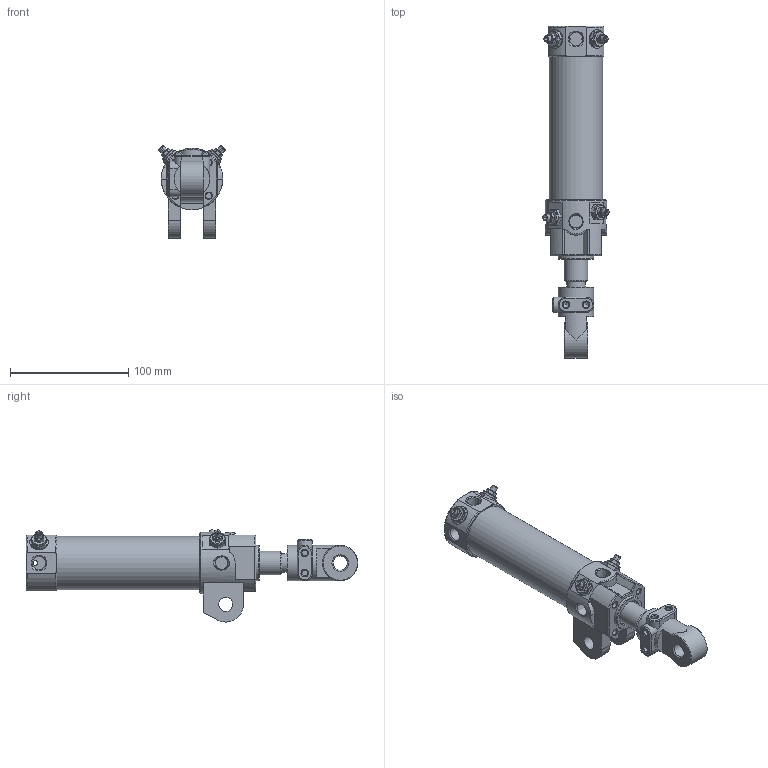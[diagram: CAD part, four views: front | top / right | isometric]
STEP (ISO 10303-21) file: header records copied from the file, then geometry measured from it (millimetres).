
FILE_DESCRIPTION((''),'2;1');
FILE_NAME('I:\3D電子目錄\氣缸\DCK\DCK\DCK-1B-40x75-I.stp','2008-02-26T11:00:09',('Administrator'),(''),'Autodesk Inventor 11','Autodesk Inventor 11','');
FILE_SCHEMA(('AUTOMOTIVE_DESIGN { 1 0 10303 214 1 1 1 1 }'));
Length unit declared in the file: millimetre
Products named in the file (6): DCK-1B-40-I; 緩衝針; 緩衝針-1; 緩衝針-201; 緩衝針-3
Assembly tree (8 placements, depth 3):
  DCK-1B-40-I
    DCK-1B-40-I
    緩衝針  x4
      緩衝針-1
      緩衝針-201
      緩衝針-3
Bounding box: 56.06 x 281 x 78.02 mm (x, y, z)
Volume: 228320.7 mm3; surface area: 96062.4 mm2
Topology: 16 solids, 16 shells, 688 faces, 1580 edges, 982 vertices
Faces by surface type: plane 234, cylinder 209, cone 144, bspline 64, torus 35, sphere 2
Full cylindrical faces by diameter (mm): 2 x1, 3 x3, 3.8 x2, 4 x6, 4.6 x4, 5 x8, 5.1 x4, 5.2 x12, 5.5 x4, 7 x1, 7.25 x1, 7.9 x4, 8 x2, 8.3 x1, 10 x2, 12 x3, 12.8 x4, 16 x3, 20 x1, 21 x1, 22 x3, 23 x1, 24.7 x1, 26 x1, 28 x1, 29 x1, 30 x3, 33 x1, 40 x1, 42 x2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
Entity records: 23322 total; most frequent: CARTESIAN_POINT 14090, DIRECTION 1810, ORIENTED_EDGE 1772, EDGE_CURVE 886, AXIS2_PLACEMENT_3D 781, EDGE_LOOP 625, VERTEX_POINT 617, FACE_OUTER_BOUND 437
